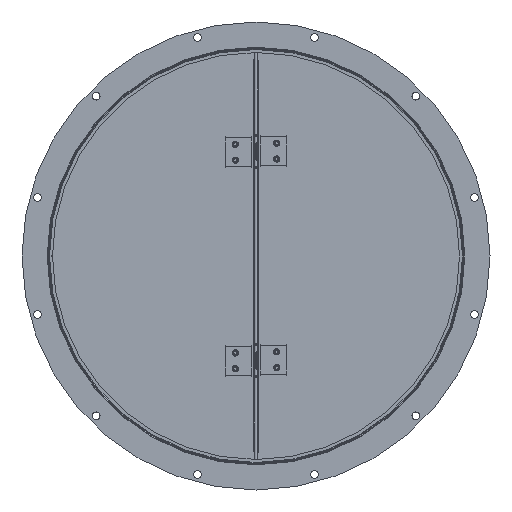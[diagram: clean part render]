
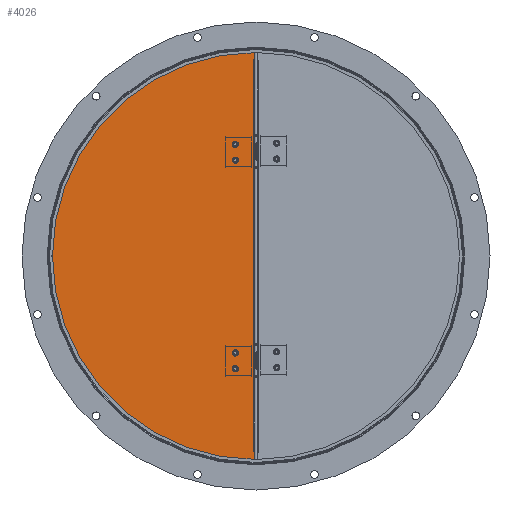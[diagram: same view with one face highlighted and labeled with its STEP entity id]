
A CAD part, left-side view. The second image highlights one B-rep face of the part: STEP entity #4026.
In plain terms, the highlighted planar face has unit normal (-1, 0, 0) as drawn and (0, 0, -1) by its records, which use the part's own axes.
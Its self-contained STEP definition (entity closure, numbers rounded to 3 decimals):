
#289=FACE_BOUND('',#1008,.T.);
#290=FACE_BOUND('',#1009,.T.);
#291=FACE_BOUND('',#1010,.T.);
#292=FACE_BOUND('',#1011,.T.);
#529=PLANE('',#4737);
#706=FACE_OUTER_BOUND('',#1007,.T.);
#1007=EDGE_LOOP('',(#3167,#3168,#3169,#3170,#3171,#3172,#3173,#3174,#3175,
#3176,#3177));
#1008=EDGE_LOOP('',(#3178));
#1009=EDGE_LOOP('',(#3179));
#1010=EDGE_LOOP('',(#3180));
#1011=EDGE_LOOP('',(#3181));
#1329=LINE('',#6845,#1546);
#1351=LINE('',#6908,#1568);
#1352=LINE('',#6911,#1569);
#1355=LINE('',#6918,#1572);
#1356=LINE('',#6923,#1573);
#1357=LINE('',#6925,#1574);
#1358=LINE('',#6928,#1575);
#1546=VECTOR('',#5462,10.);
#1568=VECTOR('',#5530,10.);
#1569=VECTOR('',#5533,10.);
#1572=VECTOR('',#5542,10.);
#1573=VECTOR('',#5547,10.);
#1574=VECTOR('',#5548,10.);
#1575=VECTOR('',#5551,10.);
#1772=CIRCLE('',#4699,2.5);
#1781=CIRCLE('',#4716,2.6);
#1782=CIRCLE('',#4718,2.6);
#1783=CIRCLE('',#4720,2.6);
#1784=CIRCLE('',#4722,2.6);
#1789=CIRCLE('',#4735,0.05);
#1790=CIRCLE('',#4738,313.5);
#1791=CIRCLE('',#4739,0.05);
#2037=VERTEX_POINT('',#6807);
#2039=VERTEX_POINT('',#6810);
#2054=VERTEX_POINT('',#6844);
#2067=VERTEX_POINT('',#6881);
#2068=VERTEX_POINT('',#6884);
#2069=VERTEX_POINT('',#6887);
#2070=VERTEX_POINT('',#6890);
#2071=VERTEX_POINT('',#6897);
#2072=VERTEX_POINT('',#6901);
#2073=VERTEX_POINT('',#6910);
#2074=VERTEX_POINT('',#6914);
#2075=VERTEX_POINT('',#6920);
#2076=VERTEX_POINT('',#6922);
#2077=VERTEX_POINT('',#6924);
#2078=VERTEX_POINT('',#6926);
#2434=EDGE_CURVE('',#2039,#2037,#1772,.T.);
#2451=EDGE_CURVE('',#2039,#2054,#1329,.T.);
#2469=EDGE_CURVE('',#2067,#2067,#1781,.T.);
#2470=EDGE_CURVE('',#2068,#2068,#1782,.T.);
#2471=EDGE_CURVE('',#2069,#2069,#1783,.T.);
#2472=EDGE_CURVE('',#2070,#2070,#1784,.T.);
#2481=EDGE_CURVE('',#2071,#2072,#1351,.T.);
#2482=EDGE_CURVE('',#2073,#2054,#1352,.T.);
#2484=EDGE_CURVE('',#2074,#2073,#1789,.T.);
#2486=EDGE_CURVE('',#2072,#2074,#1355,.T.);
#2487=EDGE_CURVE('',#2075,#2037,#1790,.T.);
#2488=EDGE_CURVE('',#2076,#2075,#1356,.T.);
#2489=EDGE_CURVE('',#2076,#2077,#1357,.T.);
#2490=EDGE_CURVE('',#2077,#2078,#1791,.T.);
#2491=EDGE_CURVE('',#2078,#2071,#1358,.T.);
#3167=ORIENTED_EDGE('',*,*,#2434,.T.);
#3168=ORIENTED_EDGE('',*,*,#2487,.F.);
#3169=ORIENTED_EDGE('',*,*,#2488,.F.);
#3170=ORIENTED_EDGE('',*,*,#2489,.T.);
#3171=ORIENTED_EDGE('',*,*,#2490,.T.);
#3172=ORIENTED_EDGE('',*,*,#2491,.T.);
#3173=ORIENTED_EDGE('',*,*,#2481,.T.);
#3174=ORIENTED_EDGE('',*,*,#2486,.T.);
#3175=ORIENTED_EDGE('',*,*,#2484,.T.);
#3176=ORIENTED_EDGE('',*,*,#2482,.T.);
#3177=ORIENTED_EDGE('',*,*,#2451,.F.);
#3178=ORIENTED_EDGE('',*,*,#2469,.T.);
#3179=ORIENTED_EDGE('',*,*,#2470,.T.);
#3180=ORIENTED_EDGE('',*,*,#2471,.T.);
#3181=ORIENTED_EDGE('',*,*,#2472,.T.);
#4026=ADVANCED_FACE('',(#706,#289,#290,#291,#292),#529,.F.);
#4699=AXIS2_PLACEMENT_3D('',#6811,#5432,#5433);
#4716=AXIS2_PLACEMENT_3D('',#6882,#5492,#5493);
#4718=AXIS2_PLACEMENT_3D('',#6885,#5496,#5497);
#4720=AXIS2_PLACEMENT_3D('',#6888,#5500,#5501);
#4722=AXIS2_PLACEMENT_3D('',#6891,#5504,#5505);
#4735=AXIS2_PLACEMENT_3D('',#6915,#5537,#5538);
#4737=AXIS2_PLACEMENT_3D('',#6919,#5543,#5544);
#4738=AXIS2_PLACEMENT_3D('',#6921,#5545,#5546);
#4739=AXIS2_PLACEMENT_3D('',#6927,#5549,#5550);
#5432=DIRECTION('center_axis',(0.,0.,1.));
#5433=DIRECTION('ref_axis',(1.,0.,0.));
#5462=DIRECTION('',(0.,-1.,0.));
#5492=DIRECTION('center_axis',(0.,0.,1.));
#5493=DIRECTION('ref_axis',(1.,0.,0.));
#5496=DIRECTION('center_axis',(0.,0.,1.));
#5497=DIRECTION('ref_axis',(1.,0.,0.));
#5500=DIRECTION('center_axis',(0.,0.,1.));
#5501=DIRECTION('ref_axis',(1.,0.,0.));
#5504=DIRECTION('center_axis',(0.,0.,1.));
#5505=DIRECTION('ref_axis',(1.,0.,0.));
#5530=DIRECTION('',(0.,1.,0.));
#5533=DIRECTION('',(-1.,0.,0.));
#5537=DIRECTION('center_axis',(0.,0.,1.));
#5538=DIRECTION('ref_axis',(0.,-1.,0.));
#5542=DIRECTION('',(1.,0.,0.));
#5543=DIRECTION('center_axis',(0.,0.,1.));
#5544=DIRECTION('ref_axis',(1.,0.,0.));
#5545=DIRECTION('center_axis',(0.,0.,1.));
#5546=DIRECTION('ref_axis',(0.003,-1.,0.));
#5547=DIRECTION('',(0.,-1.,0.));
#5548=DIRECTION('',(1.,0.,0.));
#5549=DIRECTION('center_axis',(0.,0.,1.));
#5550=DIRECTION('ref_axis',(0.,1.,0.));
#5551=DIRECTION('',(-1.,0.,0.));
#6807=CARTESIAN_POINT('',(3.5,313.48,0.));
#6810=CARTESIAN_POINT('',(1.,310.998,0.));
#6811=CARTESIAN_POINT('Origin',(1.,313.498,0.));
#6844=CARTESIAN_POINT('',(1.,298.598,0.));
#6845=CARTESIAN_POINT('',(1.,313.498,0.));
#6881=CARTESIAN_POINT('',(27.9,145.7,0.));
#6882=CARTESIAN_POINT('Origin',(30.5,145.7,0.));
#6884=CARTESIAN_POINT('',(27.9,169.7,0.));
#6885=CARTESIAN_POINT('Origin',(30.5,169.7,0.));
#6887=CARTESIAN_POINT('',(27.9,-172.4,0.));
#6888=CARTESIAN_POINT('Origin',(30.5,-172.4,0.));
#6890=CARTESIAN_POINT('',(27.9,-148.4,0.));
#6891=CARTESIAN_POINT('Origin',(30.5,-148.4,0.));
#6897=CARTESIAN_POINT('',(2.5,-298.498,0.));
#6901=CARTESIAN_POINT('',(2.5,298.498,0.));
#6908=CARTESIAN_POINT('',(2.5,149.249,0.));
#6910=CARTESIAN_POINT('',(2.55,298.598,0.));
#6911=CARTESIAN_POINT('',(55.766,298.598,0.));
#6914=CARTESIAN_POINT('',(2.55,298.498,0.));
#6915=CARTESIAN_POINT('Origin',(2.55,298.548,0.));
#6918=CARTESIAN_POINT('',(56.541,298.498,0.));
#6919=CARTESIAN_POINT('Origin',(110.532,0.,0.));
#6920=CARTESIAN_POINT('',(1.,-313.498,0.));
#6921=CARTESIAN_POINT('Origin',(0.,0.,0.));
#6922=CARTESIAN_POINT('',(1.,-298.598,0.));
#6923=CARTESIAN_POINT('',(1.,313.498,0.));
#6924=CARTESIAN_POINT('',(2.55,-298.598,0.));
#6925=CARTESIAN_POINT('',(56.541,-298.598,0.));
#6926=CARTESIAN_POINT('',(2.55,-298.498,0.));
#6927=CARTESIAN_POINT('Origin',(2.55,-298.548,0.));
#6928=CARTESIAN_POINT('',(55.766,-298.498,0.));
